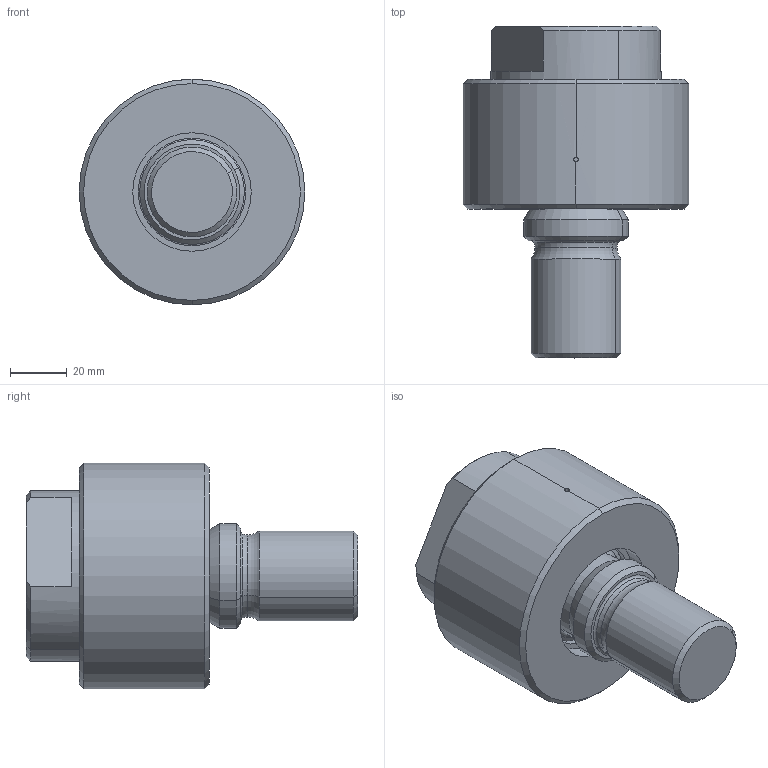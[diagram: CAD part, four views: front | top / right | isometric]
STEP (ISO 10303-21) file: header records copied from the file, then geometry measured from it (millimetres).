
FILE_DESCRIPTION (( 'STEP AP203' ), '1' );
FILE_NAME ('M040-10812.STEP', '2015-02-10T13:35:19', ( '' ), ( '' ), 'SwSTEP 2.0', 'SolidWorks 2014', '' );
FILE_SCHEMA (( 'CONFIG_CONTROL_DESIGN' ));
Length unit declared in the file: inch
Products named in the file (1): M040-10812
Bounding box: 79.38 x 116.64 x 79.38 mm (x, y, z)
Volume: 275993.6 mm3; surface area: 60928.9 mm2
Topology: 5 solids, 5 shells, 93 faces, 210 edges, 126 vertices
Faces by surface type: cylinder 30, torus 20, cone 19, plane 16, sphere 8
Entity records: 2752 total; most frequent: DIRECTION 523, CARTESIAN_POINT 500, ORIENTED_EDGE 416, AXIS2_PLACEMENT_3D 233, EDGE_CURVE 208, CIRCLE 139, VERTEX_POINT 126, EDGE_LOOP 102
